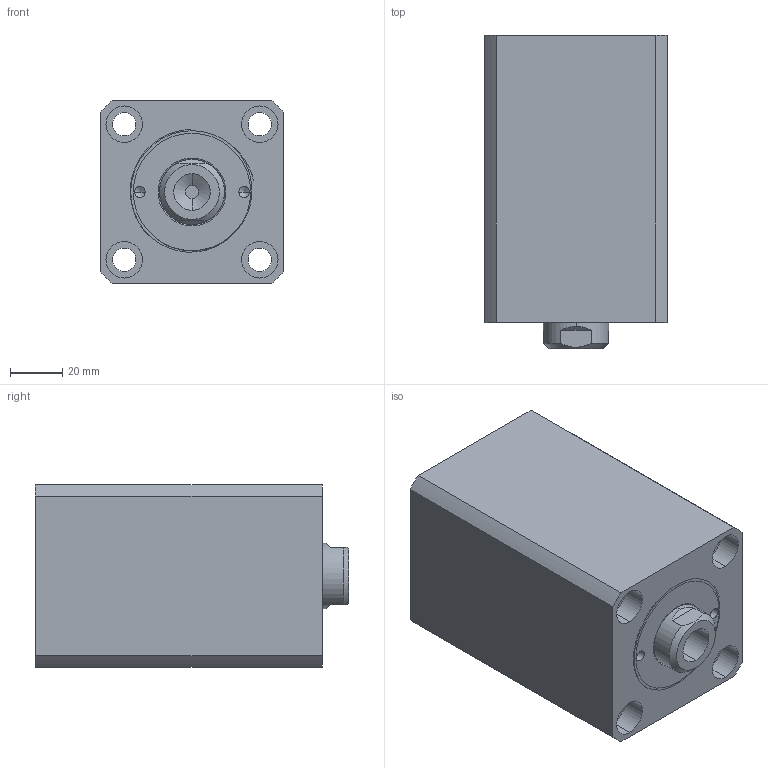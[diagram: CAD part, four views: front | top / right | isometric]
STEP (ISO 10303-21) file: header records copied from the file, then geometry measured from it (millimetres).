
FILE_DESCRIPTION (( 'STEP AP214' ), '1' );
FILE_NAME ('chtb-sdmb40x55n_asm.STEP', '2018-06-07T02:24:02', ( 'Windows' ), ( 'Microsoft' ), 'SwSTEP 2.0', 'SolidWorks 2015', '' );
FILE_SCHEMA (( 'AUTOMOTIVE_DESIGN' ));
Length unit declared in the file: millimetre
Products named in the file (4): CHTB-SDMB40X55NBT; CHTB-SD40X55NHSG; chtb-sdmb40x55n_asm; CHTB-SD40QG
Assembly tree (3 placements, depth 2):
  chtb-sdmb40x55n_asm
    CHTB-SD40X55NHSG
    CHTB-SDMB40X55NBT
    CHTB-SD40QG
Bounding box: 70 x 120 x 70 mm (x, y, z)
Volume: 450639 mm3; surface area: 92639.5 mm2
Topology: 3 solids, 3 shells, 155 faces, 407 edges, 270 vertices
Faces by surface type: cylinder 84, plane 34, torus 14, bspline 14, cone 9
Entity records: 10007 total; most frequent: CARTESIAN_POINT 6085, ORIENTED_EDGE 802, DIRECTION 758, EDGE_CURVE 401, AXIS2_PLACEMENT_3D 322, VERTEX_POINT 270, EDGE_LOOP 191, CIRCLE 175
